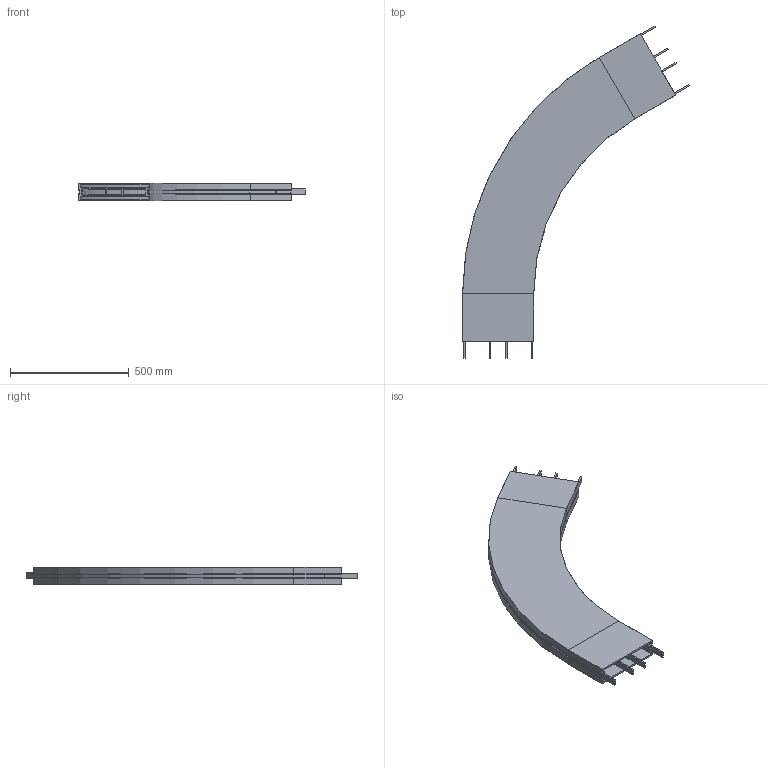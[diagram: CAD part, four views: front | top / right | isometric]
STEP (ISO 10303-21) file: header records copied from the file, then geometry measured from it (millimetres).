
FILE_DESCRIPTION (( 'STEP AP214' ), '1' );
FILE_NAME ('FBBP 60A300R1000L200L200.00.step', '2026-05-29T10:20:20', ( '' ), ( '' ), 'SwSTEP 2.0', 'SolidWorks 2024', '' );
FILE_SCHEMA (( 'AUTOMOTIVE_DESIGN' ));
Length unit declared in the file: millimetre
Products named in the file (1): FBBP 60A300R1000L200L200.00
Bounding box: 955.65 x 1398.03 x 74 mm (x, y, z)
Volume: 7980994.7 mm3; surface area: 2315485.4 mm2
Topology: 9 solids, 9 shells, 347 faces, 789 edges, 460 vertices
Faces by surface type: plane 250, cone 66, cylinder 26, torus 5
Entity records: 9477 total; most frequent: DIRECTION 1604, CARTESIAN_POINT 1597, ORIENTED_EDGE 1578, EDGE_CURVE 789, LINE 670, VECTOR 670, AXIS2_PLACEMENT_3D 467, VERTEX_POINT 460
